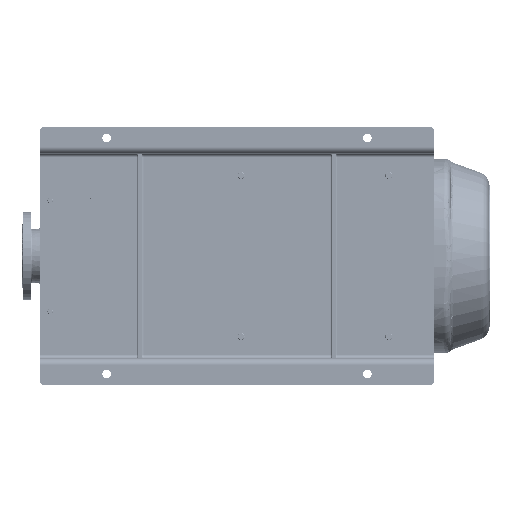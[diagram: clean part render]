
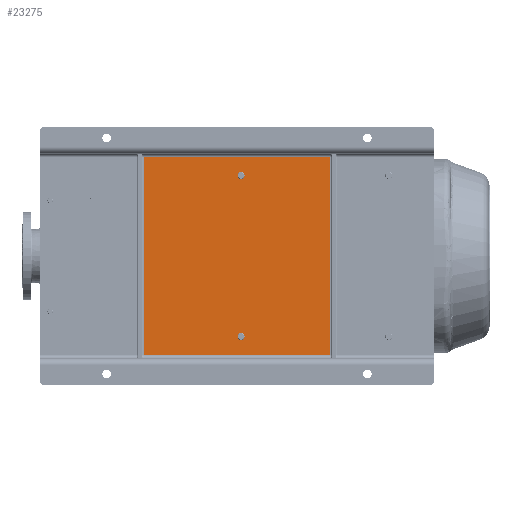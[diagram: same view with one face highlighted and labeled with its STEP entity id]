
A CAD part, front view. The second image highlights one B-rep face of the part: STEP entity #23275.
In plain terms, the highlighted planar face has unit normal (0, -1, 0).
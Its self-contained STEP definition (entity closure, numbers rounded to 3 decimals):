
#39 = ORIENTED_EDGE ( 'NONE', *, *, #77620, .T. ) ;
#429 = CARTESIAN_POINT ( 'NONE',  ( 85., 90., -295. ) ) ;
#980 = AXIS2_PLACEMENT_3D ( 'NONE', #1316, #103757, #77939 ) ;
#1316 = CARTESIAN_POINT ( 'NONE',  ( 593.5, 90., -571.5 ) ) ;
#2405 = FACE_BOUND ( 'NONE', #86319, .T. ) ;
#4483 = VERTEX_POINT ( 'NONE', #124803 ) ;
#6234 = EDGE_CURVE ( 'NONE', #87495, #121995, #26293, .T. ) ;
#6484 = DIRECTION ( 'NONE',  ( 0., 1., 0. ) ) ;
#14569 = VECTOR ( 'NONE', #61270, 1000. ) ;
#17311 = DIRECTION ( 'NONE',  ( 0., 0., -1. ) ) ;
#18347 = VERTEX_POINT ( 'NONE', #124588 ) ;
#20212 = CIRCLE ( 'NONE', #142576, 10. ) ;
#21307 = ORIENTED_EDGE ( 'NONE', *, *, #43850, .T. ) ;
#22065 = LINE ( 'NONE', #47858, #42490 ) ;
#23275 = ADVANCED_FACE ( 'NONE', ( #76541, #2405, #37416 ), #25745, .T. ) ;
#25745 = PLANE ( 'NONE',  #120281 ) ;
#26104 = CARTESIAN_POINT ( 'NONE',  ( 593.5, 90., -561.5 ) ) ;
#26293 = LINE ( 'NONE', #36299, #14569 ) ;
#35114 = ORIENTED_EDGE ( 'NONE', *, *, #62819, .T. ) ;
#35611 = DIRECTION ( 'NONE',  ( -1., 0., 0. ) ) ;
#36299 = CARTESIAN_POINT ( 'NONE',  ( 85., 90., -830. ) ) ;
#37416 = FACE_OUTER_BOUND ( 'NONE', #81662, .T. ) ;
#39023 = VECTOR ( 'NONE', #35611, 1000. ) ;
#40663 = DIRECTION ( 'NONE',  ( 0., 0., 1. ) ) ;
#41432 = CIRCLE ( 'NONE', #86585, 10. ) ;
#41965 = DIRECTION ( 'NONE',  ( 0., 1., 0. ) ) ;
#42319 = DIRECTION ( 'NONE',  ( 0., 1., 0. ) ) ;
#42490 = VECTOR ( 'NONE', #47047, 1000. ) ;
#43850 = EDGE_CURVE ( 'NONE', #121995, #149809, #22065, .T. ) ;
#44595 = ORIENTED_EDGE ( 'NONE', *, *, #68901, .T. ) ;
#46633 = EDGE_CURVE ( 'NONE', #4483, #61462, #20212, .T. ) ;
#47047 = DIRECTION ( 'NONE',  ( 1., 0., 0. ) ) ;
#47858 = CARTESIAN_POINT ( 'NONE',  ( 75., 90., -825. ) ) ;
#61270 = DIRECTION ( 'NONE',  ( 0., 0., -1. ) ) ;
#61462 = VERTEX_POINT ( 'NONE', #66732 ) ;
#62819 = EDGE_CURVE ( 'NONE', #132663, #157556, #41432, .T. ) ;
#64421 = VECTOR ( 'NONE', #40663, 1000. ) ;
#65278 = ORIENTED_EDGE ( 'NONE', *, *, #46633, .T. ) ;
#66732 = CARTESIAN_POINT ( 'NONE',  ( 136.5, 90., -561.5 ) ) ;
#68901 = EDGE_CURVE ( 'NONE', #61462, #4483, #111305, .T. ) ;
#70524 = ORIENTED_EDGE ( 'NONE', *, *, #6234, .T. ) ;
#71820 = CARTESIAN_POINT ( 'NONE',  ( 593.5, 90., -581.5 ) ) ;
#73099 = CARTESIAN_POINT ( 'NONE',  ( 75., 90., -295. ) ) ;
#76541 = FACE_BOUND ( 'NONE', #142712, .T. ) ;
#77620 = EDGE_CURVE ( 'NONE', #149809, #18347, #114816, .T. ) ;
#77939 = DIRECTION ( 'NONE',  ( 0., 0., 1. ) ) ;
#78186 = DIRECTION ( 'NONE',  ( 0., -1., 0. ) ) ;
#81457 = CARTESIAN_POINT ( 'NONE',  ( 136.5, 90., -571.5 ) ) ;
#81662 = EDGE_LOOP ( 'NONE', ( #70524, #21307, #39, #87452 ) ) ;
#86319 = EDGE_LOOP ( 'NONE', ( #44595, #65278 ) ) ;
#86585 = AXIS2_PLACEMENT_3D ( 'NONE', #94406, #41965, #156941 ) ;
#87452 = ORIENTED_EDGE ( 'NONE', *, *, #126756, .T. ) ;
#87495 = VERTEX_POINT ( 'NONE', #429 ) ;
#94406 = CARTESIAN_POINT ( 'NONE',  ( 593.5, 90., -571.5 ) ) ;
#99722 = ORIENTED_EDGE ( 'NONE', *, *, #150115, .T. ) ;
#100703 = CARTESIAN_POINT ( 'NONE',  ( 75., 90., -1120. ) ) ;
#103757 = DIRECTION ( 'NONE',  ( 0., 1., 0. ) ) ;
#111305 = CIRCLE ( 'NONE', #132674, 10. ) ;
#112588 = CIRCLE ( 'NONE', #980, 10. ) ;
#114816 = LINE ( 'NONE', #164805, #64421 ) ;
#115678 = DIRECTION ( 'NONE',  ( 0., 0., -1. ) ) ;
#120281 = AXIS2_PLACEMENT_3D ( 'NONE', #100703, #78186, #115678 ) ;
#121995 = VERTEX_POINT ( 'NONE', #143979 ) ;
#124588 = CARTESIAN_POINT ( 'NONE',  ( 645., 90., -295. ) ) ;
#124803 = CARTESIAN_POINT ( 'NONE',  ( 136.5, 90., -581.5 ) ) ;
#126756 = EDGE_CURVE ( 'NONE', #18347, #87495, #136470, .T. ) ;
#131453 = CARTESIAN_POINT ( 'NONE',  ( 645., 90., -825. ) ) ;
#132663 = VERTEX_POINT ( 'NONE', #71820 ) ;
#132674 = AXIS2_PLACEMENT_3D ( 'NONE', #143966, #42319, #17311 ) ;
#136470 = LINE ( 'NONE', #73099, #39023 ) ;
#142576 = AXIS2_PLACEMENT_3D ( 'NONE', #81457, #6484, #158120 ) ;
#142712 = EDGE_LOOP ( 'NONE', ( #99722, #35114 ) ) ;
#143966 = CARTESIAN_POINT ( 'NONE',  ( 136.5, 90., -571.5 ) ) ;
#143979 = CARTESIAN_POINT ( 'NONE',  ( 85., 90., -825. ) ) ;
#149809 = VERTEX_POINT ( 'NONE', #131453 ) ;
#150115 = EDGE_CURVE ( 'NONE', #157556, #132663, #112588, .T. ) ;
#156941 = DIRECTION ( 'NONE',  ( 0., 0., 1. ) ) ;
#157556 = VERTEX_POINT ( 'NONE', #26104 ) ;
#158120 = DIRECTION ( 'NONE',  ( 0., 0., -1. ) ) ;
#164805 = CARTESIAN_POINT ( 'NONE',  ( 645., 90., -290. ) ) ;
